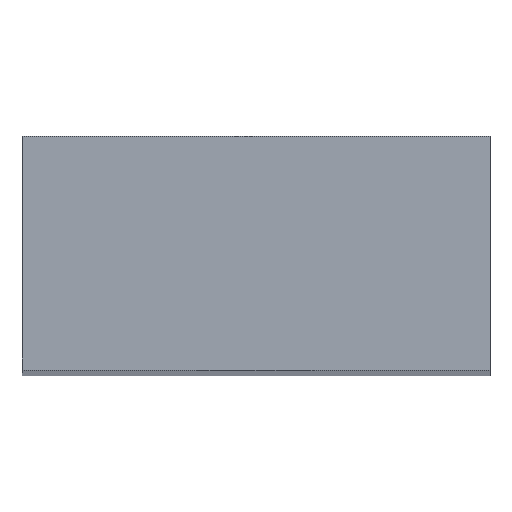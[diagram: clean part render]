
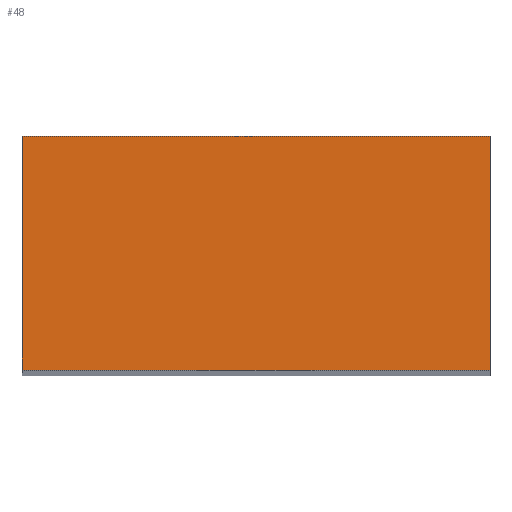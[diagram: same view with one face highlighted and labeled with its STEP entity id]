
A CAD part, top view. The second image highlights one B-rep face of the part: STEP entity #48.
In plain terms, the highlighted planar face has unit normal (0, 0, 1).
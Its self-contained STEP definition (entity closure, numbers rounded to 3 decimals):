
#42=FACE_OUTER_BOUND('',#113,.T.);
#48=ADVANCED_FACE('',(#42),#59,.T.);
#59=PLANE('',#220);
#60=LINE('',#287,#72);
#64=LINE('',#296,#76);
#67=LINE('',#308,#79);
#70=LINE('',#314,#82);
#72=VECTOR('',#236,1.);
#76=VECTOR('',#242,1.);
#79=VECTOR('',#253,1.);
#82=VECTOR('',#258,1.);
#113=EDGE_LOOP('',(#150,#151,#152,#153));
#150=ORIENTED_EDGE('',*,*,#183,.T.);
#151=ORIENTED_EDGE('',*,*,#187,.T.);
#152=ORIENTED_EDGE('',*,*,#193,.T.);
#153=ORIENTED_EDGE('',*,*,#196,.T.);
#167=VERTEX_POINT('',#288);
#168=VERTEX_POINT('',#289);
#171=VERTEX_POINT('',#297);
#176=VERTEX_POINT('',#309);
#183=EDGE_CURVE('',#167,#168,#60,.T.);
#187=EDGE_CURVE('',#168,#171,#64,.T.);
#193=EDGE_CURVE('',#171,#176,#67,.T.);
#196=EDGE_CURVE('',#176,#167,#70,.T.);
#220=AXIS2_PLACEMENT_3D('',#318,#264,#265);
#236=DIRECTION('',(-1.,0.,0.));
#242=DIRECTION('',(0.,-1.,0.));
#253=DIRECTION('',(1.,0.,0.));
#258=DIRECTION('',(0.,1.,0.));
#264=DIRECTION('',(0.,0.,1.));
#265=DIRECTION('',(1.,0.,0.));
#287=CARTESIAN_POINT('',(20.,10.,144.5));
#288=CARTESIAN_POINT('',(20.,10.,144.5));
#289=CARTESIAN_POINT('',(0.,10.,144.5));
#296=CARTESIAN_POINT('',(0.,10.,144.5));
#297=CARTESIAN_POINT('',(0.,0.,144.5));
#308=CARTESIAN_POINT('',(0.,0.,144.5));
#309=CARTESIAN_POINT('',(20.,0.,144.5));
#314=CARTESIAN_POINT('',(20.,0.,144.5));
#318=CARTESIAN_POINT('',(0.,0.,144.5));
